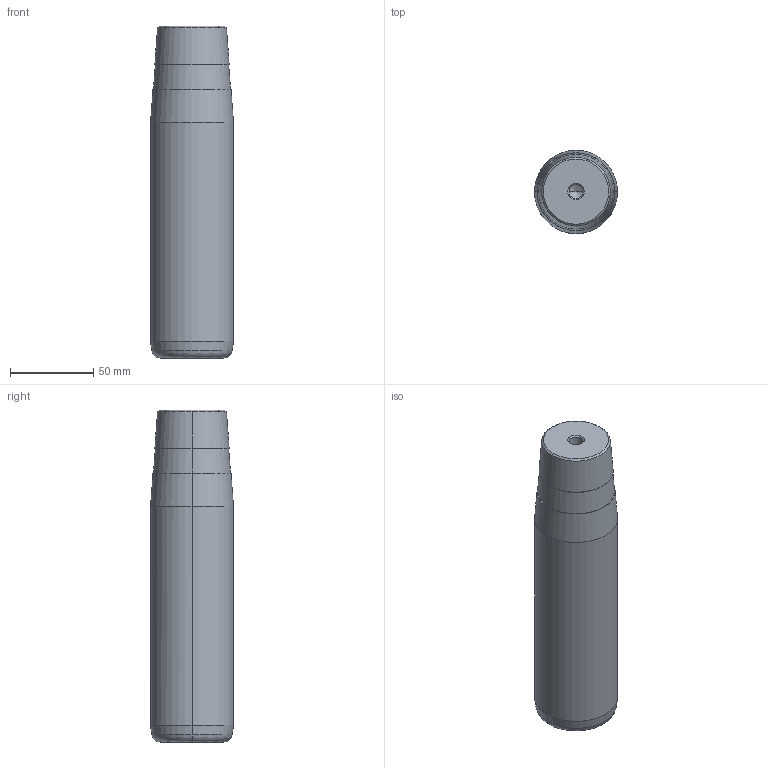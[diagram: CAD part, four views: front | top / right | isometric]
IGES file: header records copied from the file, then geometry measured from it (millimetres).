
Start section: START RECORD GO HERE.
Global section: file name: 722-50x160x200.igs; native system: DASSAULT SYSTEMES CATIA V5 R20 - www.3ds.com; preprocessor: CATIA Version 5 Release 20 ; author: Utente; organization: NB04-ASUS; date: 20210108.155719; units: millimetre
Bounding box: 50 x 50 x 200 mm (x, y, z)
Surface area: 34814.8 mm2 (no closed solid volume)
Topology: 0 solids, 0 shells, 32 faces, 128 edges, 124 vertices
Faces by surface type: revolution 30, plane 2
